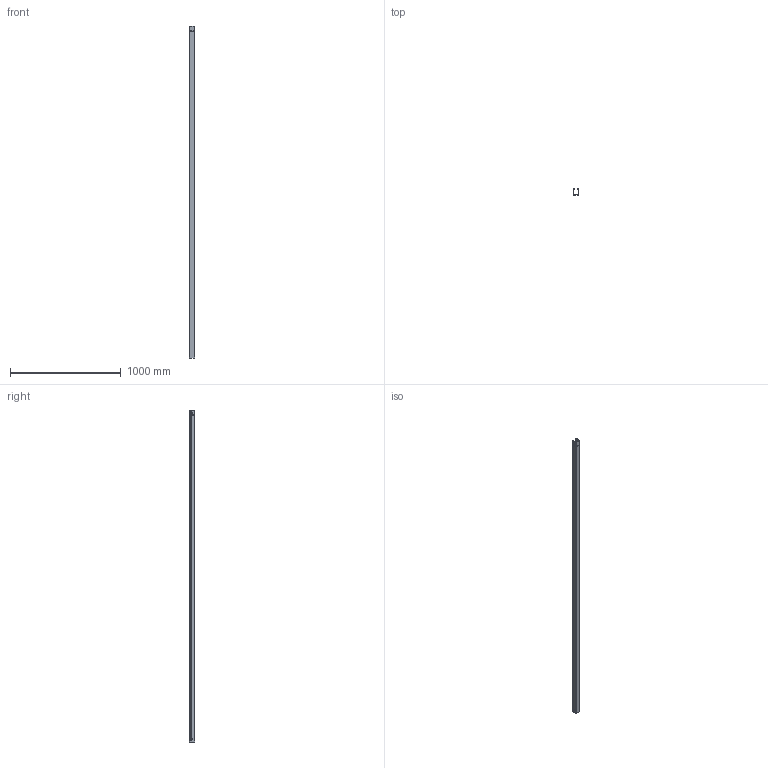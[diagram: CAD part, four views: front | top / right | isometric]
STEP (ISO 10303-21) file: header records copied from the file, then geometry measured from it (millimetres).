
FILE_DESCRIPTION (( 'STEP AP203' ), '1' );
FILE_NAME ('ERE-C 50x50.STEP', '2020-03-12T15:52:09', ( '' ), ( '' ), 'SwSTEP 2.0', 'SolidWorks 2019', '' );
FILE_SCHEMA (( 'CONFIG_CONTROL_DESIGN' ));
Length unit declared in the file: millimetre
Products named in the file (1): ERE-C 50x50
Bounding box: 50 x 50 x 2997.5 mm (x, y, z)
Surface area: 956516.7 mm2 (no closed solid volume)
Topology: 0 solids, 3 shells, 263 faces, 937 edges, 678 vertices
Faces by surface type: plane 183, cylinder 78, bspline 2
Entity records: 11202 total; most frequent: CARTESIAN_POINT 3051, ORIENTED_EDGE 1738, DIRECTION 1655, EDGE_CURVE 937, VERTEX_POINT 678, AXIS2_PLACEMENT_3D 600, VECTOR 455, LINE 455
